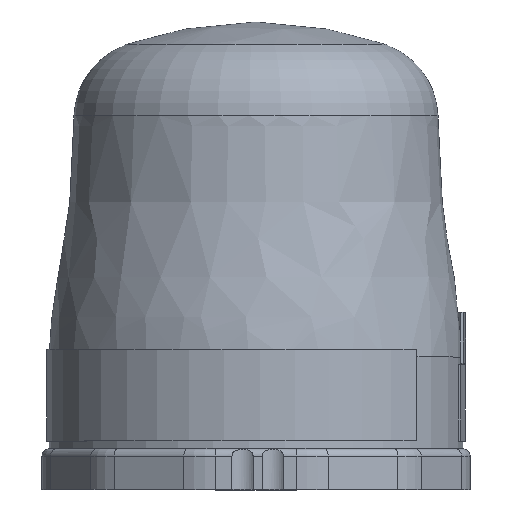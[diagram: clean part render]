
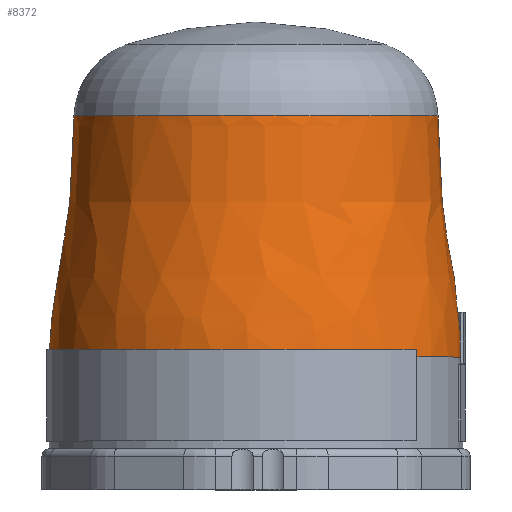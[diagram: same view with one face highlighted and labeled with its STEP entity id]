
A CAD part, top view. The second image highlights one B-rep face of the part: STEP entity #8372.
In plain terms, the highlighted free-form (B-spline) face has degree [4, 2] with [7, 9] control points.
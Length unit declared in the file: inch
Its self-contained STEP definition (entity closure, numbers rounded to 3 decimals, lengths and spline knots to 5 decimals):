
#103=(
BOUNDED_SURFACE()
B_SPLINE_SURFACE(4,2,((#14925,#14926,#14927,#14928,#14929,#14930,#14931,
#14932,#14933),(#14934,#14935,#14936,#14937,#14938,#14939,#14940,#14941,
#14942),(#14943,#14944,#14945,#14946,#14947,#14948,#14949,#14950,#14951),
(#14952,#14953,#14954,#14955,#14956,#14957,#14958,#14959,#14960),(#14961,
#14962,#14963,#14964,#14965,#14966,#14967,#14968,#14969),(#14970,#14971,
#14972,#14973,#14974,#14975,#14976,#14977,#14978),(#14979,#14980,#14981,
#14982,#14983,#14984,#14985,#14986,#14987)),.UNSPECIFIED.,.F.,.T.,.F.)
B_SPLINE_SURFACE_WITH_KNOTS((5,1,1,5),(3,2,2,2,3),(-1.,-0.67535,
-0.42535,0.),(0.,1.5708,3.14159,4.71239,
6.28319),.UNSPECIFIED.)
GEOMETRIC_REPRESENTATION_ITEM()
RATIONAL_B_SPLINE_SURFACE(((1.,0.707,1.,0.707,1.,
0.707,1.,0.707,1.),(1.,0.707,1.,0.707,
1.,0.707,1.,0.707,1.),(1.,0.707,1.,
0.707,1.,0.707,1.,0.707,1.),(1.,0.707,
1.,0.707,1.,0.707,1.,0.707,1.),(1.,
0.707,1.,0.707,1.,0.707,1.,0.707,
1.),(1.,0.707,1.,0.707,1.,0.707,1.,
0.707,1.),(1.,0.707,1.,0.707,1.,0.707,
1.,0.707,1.)))
REPRESENTATION_ITEM('')
SURFACE()
);
#340=B_SPLINE_CURVE_WITH_KNOTS('',4,(#14989,#14990,#14991,#14992,#14993,
#14994,#14995),.UNSPECIFIED.,.F.,.F.,(5,1,1,5),(0.,0.42535,0.67535,
0.71536),.UNSPECIFIED.);
#1138=FACE_OUTER_BOUND('',#1700,.T.);
#1700=EDGE_LOOP('',(#7366,#7367,#7368,#7369));
#2206=CIRCLE('',#9262,0.71473);
#2208=CIRCLE('',#9265,0.8125);
#4332=VERTEX_POINT('',#14920);
#4334=VERTEX_POINT('',#14988);
#5378=EDGE_CURVE('',#4332,#4332,#2206,.T.);
#5380=EDGE_CURVE('',#4334,#4332,#340,.T.);
#5381=EDGE_CURVE('',#4334,#4334,#2208,.T.);
#7366=ORIENTED_EDGE('',*,*,#5378,.T.);
#7367=ORIENTED_EDGE('',*,*,#5380,.F.);
#7368=ORIENTED_EDGE('',*,*,#5381,.F.);
#7369=ORIENTED_EDGE('',*,*,#5380,.T.);
#8372=ADVANCED_FACE('',(#1138),#103,.F.);
#9262=AXIS2_PLACEMENT_3D('',#14921,#11323,#11324);
#9265=AXIS2_PLACEMENT_3D('',#14996,#11329,#11330);
#11323=DIRECTION('center_axis',(0.,-1.,0.));
#11324=DIRECTION('ref_axis',(0.589,0.,0.808));
#11329=DIRECTION('center_axis',(0.,-1.,0.));
#11330=DIRECTION('ref_axis',(0.,0.,1.));
#14920=CARTESIAN_POINT('',(0.,1.30689,0.71473));
#14921=CARTESIAN_POINT('Origin',(0.,1.30689,
0.));
#14925=CARTESIAN_POINT('Ctrl Pts',(0.,1.53758,0.59354));
#14926=CARTESIAN_POINT('Ctrl Pts',(-0.59354,1.53758,
0.59354));
#14927=CARTESIAN_POINT('Ctrl Pts',(-0.59354,1.53758,
0.));
#14928=CARTESIAN_POINT('Ctrl Pts',(-0.59354,1.53758,
-0.59354));
#14929=CARTESIAN_POINT('Ctrl Pts',(0.,1.53758,-0.59354));
#14930=CARTESIAN_POINT('Ctrl Pts',(0.59354,1.53758,-0.59354));
#14931=CARTESIAN_POINT('Ctrl Pts',(0.59354,1.53758,0.));
#14932=CARTESIAN_POINT('Ctrl Pts',(0.59354,1.53758,0.59354));
#14933=CARTESIAN_POINT('Ctrl Pts',(0.,1.53758,0.59354));
#14934=CARTESIAN_POINT('Ctrl Pts',(0.,1.50645,0.66578));
#14935=CARTESIAN_POINT('Ctrl Pts',(-0.66578,1.50645,
0.66578));
#14936=CARTESIAN_POINT('Ctrl Pts',(-0.66578,1.50645,
0.));
#14937=CARTESIAN_POINT('Ctrl Pts',(-0.66578,1.50645,
-0.66578));
#14938=CARTESIAN_POINT('Ctrl Pts',(0.,1.50645,-0.66578));
#14939=CARTESIAN_POINT('Ctrl Pts',(0.66578,1.50645,-0.66578));
#14940=CARTESIAN_POINT('Ctrl Pts',(0.66578,1.50645,0.));
#14941=CARTESIAN_POINT('Ctrl Pts',(0.66578,1.50645,0.66578));
#14942=CARTESIAN_POINT('Ctrl Pts',(0.,1.50645,0.66578));
#14943=CARTESIAN_POINT('Ctrl Pts',(0.,1.3722,0.73483));
#14944=CARTESIAN_POINT('Ctrl Pts',(-0.73483,1.3722,
0.73483));
#14945=CARTESIAN_POINT('Ctrl Pts',(-0.73483,1.3722,
0.));
#14946=CARTESIAN_POINT('Ctrl Pts',(-0.73483,1.3722,
-0.73483));
#14947=CARTESIAN_POINT('Ctrl Pts',(0.,1.3722,-0.73483));
#14948=CARTESIAN_POINT('Ctrl Pts',(0.73483,1.3722,-0.73483));
#14949=CARTESIAN_POINT('Ctrl Pts',(0.73483,1.3722,0.));
#14950=CARTESIAN_POINT('Ctrl Pts',(0.73483,1.3722,0.73483));
#14951=CARTESIAN_POINT('Ctrl Pts',(0.,1.3722,0.73483));
#14952=CARTESIAN_POINT('Ctrl Pts',(0.,1.12067,0.69299));
#14953=CARTESIAN_POINT('Ctrl Pts',(-0.69299,1.12067,
0.69299));
#14954=CARTESIAN_POINT('Ctrl Pts',(-0.69299,1.12067,
0.));
#14955=CARTESIAN_POINT('Ctrl Pts',(-0.69299,1.12067,
-0.69299));
#14956=CARTESIAN_POINT('Ctrl Pts',(0.,1.12067,-0.69299));
#14957=CARTESIAN_POINT('Ctrl Pts',(0.69299,1.12067,-0.69299));
#14958=CARTESIAN_POINT('Ctrl Pts',(0.69299,1.12067,0.));
#14959=CARTESIAN_POINT('Ctrl Pts',(0.69299,1.12067,0.69299));
#14960=CARTESIAN_POINT('Ctrl Pts',(0.,1.12067,0.69299));
#14961=CARTESIAN_POINT('Ctrl Pts',(0.,0.76736,0.75882));
#14962=CARTESIAN_POINT('Ctrl Pts',(-0.75882,0.76736,
0.75882));
#14963=CARTESIAN_POINT('Ctrl Pts',(-0.75882,0.76736,
0.));
#14964=CARTESIAN_POINT('Ctrl Pts',(-0.75882,0.76736,
-0.75882));
#14965=CARTESIAN_POINT('Ctrl Pts',(0.,0.76736,-0.75882));
#14966=CARTESIAN_POINT('Ctrl Pts',(0.75882,0.76736,
-0.75882));
#14967=CARTESIAN_POINT('Ctrl Pts',(0.75882,0.76736,
0.));
#14968=CARTESIAN_POINT('Ctrl Pts',(0.75882,0.76736,
0.75882));
#14969=CARTESIAN_POINT('Ctrl Pts',(0.,0.76736,0.75882));
#14970=CARTESIAN_POINT('Ctrl Pts',(0.,0.51642,0.8125));
#14971=CARTESIAN_POINT('Ctrl Pts',(-0.8125,0.51642,
0.8125));
#14972=CARTESIAN_POINT('Ctrl Pts',(-0.8125,0.51642,
0.));
#14973=CARTESIAN_POINT('Ctrl Pts',(-0.8125,0.51642,
-0.8125));
#14974=CARTESIAN_POINT('Ctrl Pts',(0.,0.51642,-0.8125));
#14975=CARTESIAN_POINT('Ctrl Pts',(0.8125,0.51642,
-0.8125));
#14976=CARTESIAN_POINT('Ctrl Pts',(0.8125,0.51642,
0.));
#14977=CARTESIAN_POINT('Ctrl Pts',(0.8125,0.51642,
0.8125));
#14978=CARTESIAN_POINT('Ctrl Pts',(0.,0.51642,0.8125));
#14979=CARTESIAN_POINT('Ctrl Pts',(0.,0.36,0.8125));
#14980=CARTESIAN_POINT('Ctrl Pts',(-0.8125,0.36,
0.8125));
#14981=CARTESIAN_POINT('Ctrl Pts',(-0.8125,0.36,0.));
#14982=CARTESIAN_POINT('Ctrl Pts',(-0.8125,0.36,
-0.8125));
#14983=CARTESIAN_POINT('Ctrl Pts',(0.,0.36,-0.8125));
#14984=CARTESIAN_POINT('Ctrl Pts',(0.8125,0.36,
-0.8125));
#14985=CARTESIAN_POINT('Ctrl Pts',(0.8125,0.36,0.));
#14986=CARTESIAN_POINT('Ctrl Pts',(0.8125,0.36,
0.8125));
#14987=CARTESIAN_POINT('Ctrl Pts',(0.,0.36,0.8125));
#14988=CARTESIAN_POINT('',(0.,0.36,0.8125));
#14989=CARTESIAN_POINT('Ctrl Pts',(0.,0.36,0.8125));
#14990=CARTESIAN_POINT('Ctrl Pts',(0.,0.51642,0.8125));
#14991=CARTESIAN_POINT('Ctrl Pts',(0.,0.76736,0.75882));
#14992=CARTESIAN_POINT('Ctrl Pts',(0.,1.02011,0.71172));
#14993=CARTESIAN_POINT('Ctrl Pts',(0.,1.22076,0.71973));
#14994=CARTESIAN_POINT('Ctrl Pts',(0.,1.29655,0.7155));
#14995=CARTESIAN_POINT('Ctrl Pts',(0.,1.30689,0.71473));
#14996=CARTESIAN_POINT('Origin',(0.,0.36,0.));
